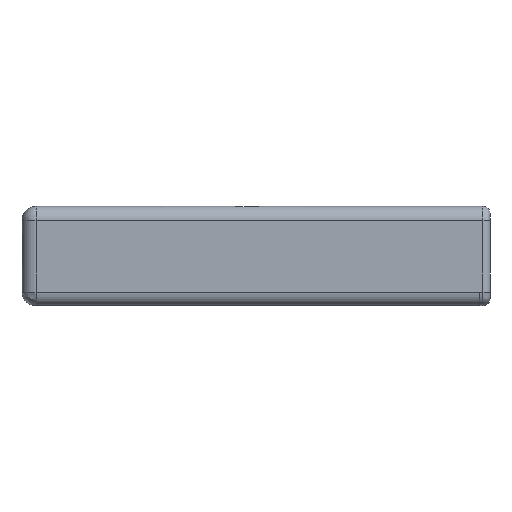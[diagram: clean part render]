
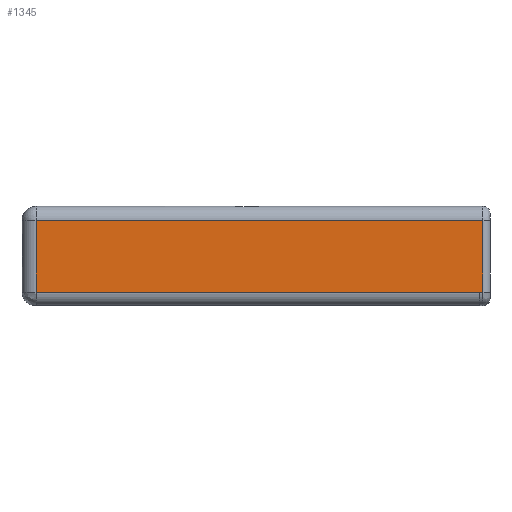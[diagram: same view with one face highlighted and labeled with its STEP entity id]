
A CAD part, front view. The second image highlights one B-rep face of the part: STEP entity #1345.
In plain terms, the highlighted planar face has unit normal (0, -1, 0).
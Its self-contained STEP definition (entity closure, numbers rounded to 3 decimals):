
#67=LINE('',#2334,#147);
#105=LINE('',#2622,#185);
#109=LINE('',#2629,#189);
#110=LINE('',#2633,#190);
#111=LINE('',#2634,#191);
#147=VECTOR('',#1641,10.);
#185=VECTOR('',#1809,10.);
#189=VECTOR('',#1817,10.);
#190=VECTOR('',#1822,10.);
#191=VECTOR('',#1823,10.);
#232=PLANE('',#1497);
#301=FACE_OUTER_BOUND('',#387,.T.);
#387=EDGE_LOOP('',(#1106,#1107,#1108,#1109,#1110));
#585=VERTEX_POINT('',#2331);
#586=VERTEX_POINT('',#2333);
#651=VERTEX_POINT('',#2617);
#652=VERTEX_POINT('',#2628);
#653=VERTEX_POINT('',#2632);
#722=EDGE_CURVE('',#585,#586,#67,.T.);
#813=EDGE_CURVE('',#586,#651,#105,.T.);
#817=EDGE_CURVE('',#651,#652,#109,.T.);
#819=EDGE_CURVE('',#653,#585,#110,.T.);
#820=EDGE_CURVE('',#652,#653,#111,.T.);
#1106=ORIENTED_EDGE('',*,*,#813,.F.);
#1107=ORIENTED_EDGE('',*,*,#722,.F.);
#1108=ORIENTED_EDGE('',*,*,#819,.F.);
#1109=ORIENTED_EDGE('',*,*,#820,.F.);
#1110=ORIENTED_EDGE('',*,*,#817,.F.);
#1345=ADVANCED_FACE('',(#301),#232,.T.);
#1497=AXIS2_PLACEMENT_3D('',#2631,#1820,#1821);
#1641=DIRECTION('',(1.,0.,0.));
#1809=DIRECTION('',(0.,0.,-1.));
#1817=DIRECTION('',(-1.,0.,0.));
#1820=DIRECTION('center_axis',(0.,-1.,0.));
#1821=DIRECTION('ref_axis',(1.,0.,0.));
#1822=DIRECTION('',(0.,0.,1.));
#1823=DIRECTION('',(-1.,0.,0.));
#2331=CARTESIAN_POINT('',(-31.,-6.5,0.));
#2333=CARTESIAN_POINT('',(32.,-6.5,0.));
#2334=CARTESIAN_POINT('',(-16.5,-6.5,0.));
#2617=CARTESIAN_POINT('',(32.,-6.5,-10.1));
#2622=CARTESIAN_POINT('',(32.,-6.5,0.));
#2628=CARTESIAN_POINT('',(31.5,-6.5,-10.1));
#2629=CARTESIAN_POINT('',(-16.5,-6.5,-10.1));
#2631=CARTESIAN_POINT('Origin',(-33.,-6.5,0.));
#2632=CARTESIAN_POINT('',(-31.,-6.5,-10.1));
#2633=CARTESIAN_POINT('',(-31.,-6.5,0.));
#2634=CARTESIAN_POINT('',(-16.5,-6.5,-10.1));
